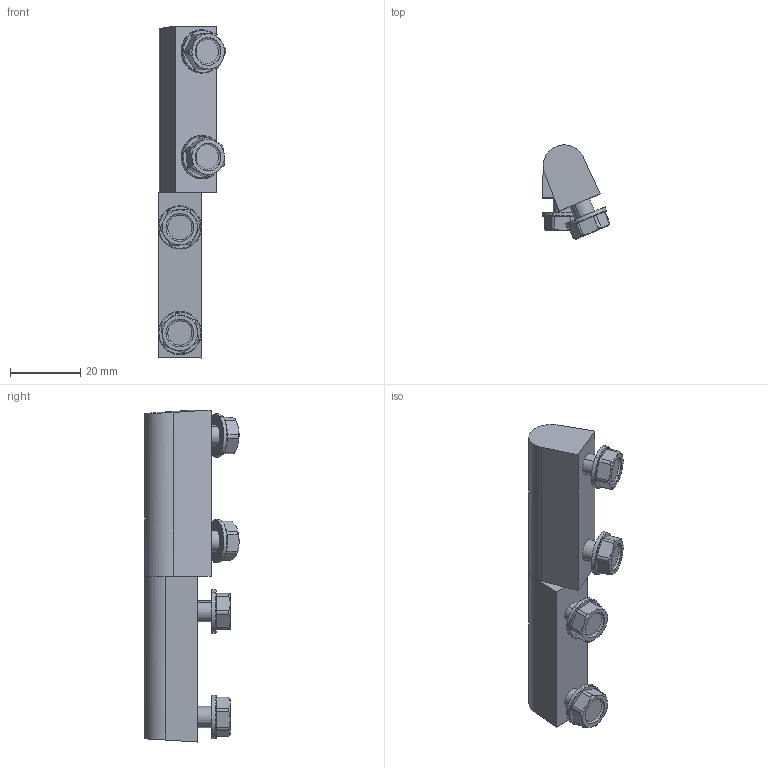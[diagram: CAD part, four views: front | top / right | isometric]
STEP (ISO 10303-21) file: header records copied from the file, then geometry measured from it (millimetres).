
FILE_DESCRIPTION (( 'STEP AP214' ), '1' );
FILE_NAME ('3.ZN151.001.STEP', '2010-02-10T14:37:55', ( 'Rak' ), ( 'ROZTOCZE' ), 'SwSTEP 2.0', 'SolidWorks 2004231', '' );
FILE_SCHEMA (( 'AUTOMOTIVE_DESIGN' ));
Length unit declared in the file: millimetre
Products named in the file (8): 3.ZN151.001; 3.ZN151.001.01_Domyœlna; 3.ZN151.001.02; 3.ZN151.001.04_Domyœlna; 3.ZN151.001.01-bryla; 3.ZN151.001.03; M6_M6 x 10; 3.ZN151.001.04-bryla
Assembly tree (11 placements, depth 3):
  3.ZN151.001
    M6_M6 x 10  x4
    3.ZN151.001.04_Domyœlna
      3.ZN151.001.02
      3.ZN151.001.04-bryla
    3.ZN151.001.01_Domyœlna
      3.ZN151.001.02
      3.ZN151.001.01-bryla
      3.ZN151.001.03
Bounding box: 19.2 x 26.74 x 94.34 mm (x, y, z)
Volume: 19197.4 mm3; surface area: 14958.7 mm2
Topology: 9 solids, 9 shells, 270 faces, 610 edges, 386 vertices
Faces by surface type: cylinder 112, plane 92, cone 38, torus 28
Entity records: 4221 total; most frequent: CARTESIAN_POINT 749, DIRECTION 730, ORIENTED_EDGE 604, EDGE_CURVE 302, AXIS2_PLACEMENT_3D 299, VERTEX_POINT 194, EDGE_LOOP 172, CIRCLE 148
